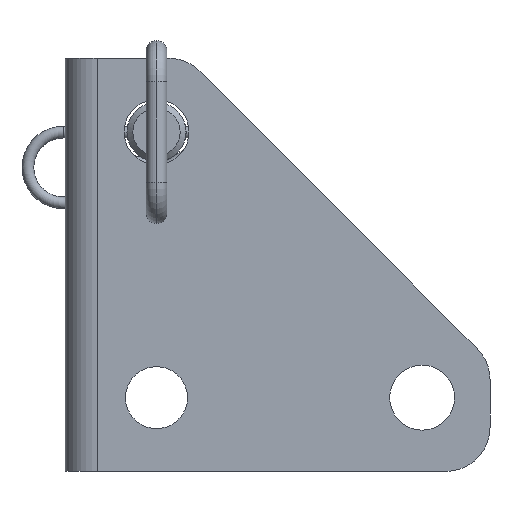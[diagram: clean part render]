
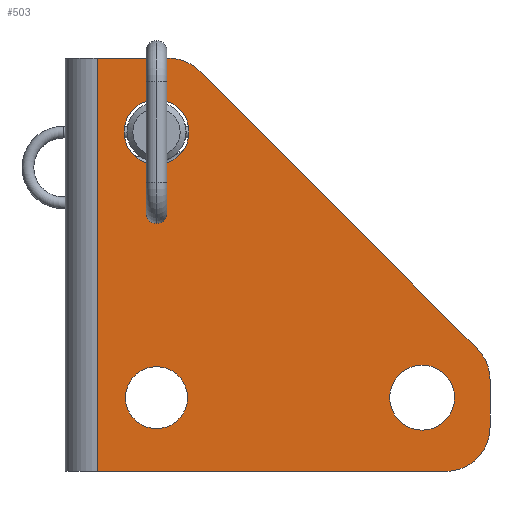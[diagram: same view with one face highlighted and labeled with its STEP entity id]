
A CAD part, left-side view. The second image highlights one B-rep face of the part: STEP entity #503.
In plain terms, the highlighted planar face has unit normal (-1, 0, 0).
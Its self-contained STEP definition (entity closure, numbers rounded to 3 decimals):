
#58 = VERTEX_POINT ( 'NONE', #808 ) ;
#60 = EDGE_CURVE ( 'NONE', #58, #61, #807, .T. ) ;
#61 = VERTEX_POINT ( 'NONE', #802 ) ;
#68 = VERTEX_POINT ( 'NONE', #1017 ) ;
#70 = VERTEX_POINT ( 'NONE', #1016 ) ;
#86 = EDGE_CURVE ( 'NONE', #87, #136, #957, .T. ) ;
#87 = VERTEX_POINT ( 'NONE', #953 ) ;
#136 = VERTEX_POINT ( 'NONE', #1068 ) ;
#160 = VERTEX_POINT ( 'NONE', #1149 ) ;
#162 = EDGE_CURVE ( 'NONE', #160, #163, #1147, .T. ) ;
#163 = VERTEX_POINT ( 'NONE', #1148 ) ;
#173 = VERTEX_POINT ( 'NONE', #1237 ) ;
#175 = EDGE_CURVE ( 'NONE', #173, #176, #1236, .T. ) ;
#176 = VERTEX_POINT ( 'NONE', #1231 ) ;
#269 = EDGE_CURVE ( 'NONE', #68, #70, #1196, .T. ) ;
#366 = ORIENTED_EDGE ( 'NONE', *, *, #367, .F. ) ;
#367 = EDGE_CURVE ( 'NONE', #368, #397, #1401, .T. ) ;
#368 = VERTEX_POINT ( 'NONE', #1393 ) ;
#369 = ORIENTED_EDGE ( 'NONE', *, *, #370, .T. ) ;
#370 = EDGE_CURVE ( 'NONE', #368, #70, #1392, .T. ) ;
#374 = ORIENTED_EDGE ( 'NONE', *, *, #502, .F. ) ;
#375 = ORIENTED_EDGE ( 'NONE', *, *, #162, .F. ) ;
#376 = EDGE_LOOP ( 'NONE', ( #377, #379 ) ) ;
#377 = ORIENTED_EDGE ( 'NONE', *, *, #378, .F. ) ;
#378 = EDGE_CURVE ( 'NONE', #61, #58, #1374, .T. ) ;
#379 = ORIENTED_EDGE ( 'NONE', *, *, #60, .F. ) ;
#380 = EDGE_LOOP ( 'NONE', ( #381, #389 ) ) ;
#381 = ORIENTED_EDGE ( 'NONE', *, *, #382, .F. ) ;
#382 = EDGE_CURVE ( 'NONE', #176, #173, #1368, .T. ) ;
#383 = ORIENTED_EDGE ( 'NONE', *, *, #269, .F. ) ;
#384 = ORIENTED_EDGE ( 'NONE', *, *, #385, .F. ) ;
#385 = EDGE_CURVE ( 'NONE', #87, #68, #1363, .T. ) ;
#386 = ORIENTED_EDGE ( 'NONE', *, *, #86, .T. ) ;
#387 = ORIENTED_EDGE ( 'NONE', *, *, #388, .T. ) ;
#388 = EDGE_CURVE ( 'NONE', #136, #393, #1331, .T. ) ;
#389 = ORIENTED_EDGE ( 'NONE', *, *, #175, .F. ) ;
#390 = EDGE_LOOP ( 'NONE', ( #391, #395, #366, #369, #383, #384, #386, #387 ) ) ;
#391 = ORIENTED_EDGE ( 'NONE', *, *, #392, .T. ) ;
#392 = EDGE_CURVE ( 'NONE', #393, #394, #1326, .T. ) ;
#393 = VERTEX_POINT ( 'NONE', #1297 ) ;
#394 = VERTEX_POINT ( 'NONE', #1296 ) ;
#395 = ORIENTED_EDGE ( 'NONE', *, *, #396, .T. ) ;
#396 = EDGE_CURVE ( 'NONE', #394, #397, #1295, .T. ) ;
#397 = VERTEX_POINT ( 'NONE', #1290 ) ;
#502 = EDGE_CURVE ( 'NONE', #163, #160, #1510, .T. ) ;
#503 = ADVANCED_FACE ( 'NONE', ( #1505, #1504, #1503, #1502 ), #1501, .T. ) ;
#504 = EDGE_LOOP ( 'NONE', ( #374, #375 ) ) ;
#802 = CARTESIAN_POINT ( 'NONE',  ( 0., 113., -104.5 ) ) ;
#803 = DIRECTION ( 'NONE',  ( 0., 0., 1. ) ) ;
#804 = DIRECTION ( 'NONE',  ( -1., 0., 0. ) ) ;
#805 = CARTESIAN_POINT ( 'NONE',  ( 0., 113., -115. ) ) ;
#806 = AXIS2_PLACEMENT_3D ( 'NONE', #805, #804, #803 ) ;
#807 = CIRCLE ( 'NONE', #806, 10.5 ) ;
#808 = CARTESIAN_POINT ( 'NONE',  ( 0., 113., -125.5 ) ) ;
#953 = CARTESIAN_POINT ( 'NONE',  ( 0., 133., -140. ) ) ;
#954 = DIRECTION ( 'NONE',  ( 0., -1., 0. ) ) ;
#955 = VECTOR ( 'NONE', #954, 1000. ) ;
#956 = CARTESIAN_POINT ( 'NONE',  ( 0., 0., -140. ) ) ;
#957 = LINE ( 'NONE', #956, #955 ) ;
#1016 = CARTESIAN_POINT ( 'NONE',  ( 0., 108.858, 0. ) ) ;
#1017 = CARTESIAN_POINT ( 'NONE',  ( 0., 133., 0. ) ) ;
#1068 = CARTESIAN_POINT ( 'NONE',  ( 0., 15., -140. ) ) ;
#1143 = DIRECTION ( 'NONE',  ( 0., 0., 1. ) ) ;
#1144 = DIRECTION ( 'NONE',  ( -1., 0., 0. ) ) ;
#1145 = CARTESIAN_POINT ( 'NONE',  ( 0., 23., -115. ) ) ;
#1146 = AXIS2_PLACEMENT_3D ( 'NONE', #1145, #1144, #1143 ) ;
#1147 = CIRCLE ( 'NONE', #1146, 11. ) ;
#1148 = CARTESIAN_POINT ( 'NONE',  ( 0., 23., -104. ) ) ;
#1149 = CARTESIAN_POINT ( 'NONE',  ( 0., 23., -126. ) ) ;
#1193 = DIRECTION ( 'NONE',  ( 0., -1., 0. ) ) ;
#1194 = VECTOR ( 'NONE', #1193, 1000. ) ;
#1195 = CARTESIAN_POINT ( 'NONE',  ( 0., 0., 0. ) ) ;
#1196 = LINE ( 'NONE', #1195, #1194 ) ;
#1231 = CARTESIAN_POINT ( 'NONE',  ( 0., 113., -14. ) ) ;
#1232 = DIRECTION ( 'NONE',  ( 0., 0., 1. ) ) ;
#1233 = DIRECTION ( 'NONE',  ( -1., 0., 0. ) ) ;
#1234 = CARTESIAN_POINT ( 'NONE',  ( 0., 113., -25. ) ) ;
#1235 = AXIS2_PLACEMENT_3D ( 'NONE', #1234, #1233, #1232 ) ;
#1236 = CIRCLE ( 'NONE', #1235, 11. ) ;
#1237 = CARTESIAN_POINT ( 'NONE',  ( 0., 113., -36. ) ) ;
#1290 = CARTESIAN_POINT ( 'NONE',  ( 0., 4.393, -98.251 ) ) ;
#1291 = DIRECTION ( 'NONE',  ( 0., 0., 1. ) ) ;
#1292 = DIRECTION ( 'NONE',  ( -1., 0., 0. ) ) ;
#1293 = CARTESIAN_POINT ( 'NONE',  ( 0., 15., -108.858 ) ) ;
#1294 = AXIS2_PLACEMENT_3D ( 'NONE', #1293, #1292, #1291 ) ;
#1295 = CIRCLE ( 'NONE', #1294, 15. ) ;
#1296 = CARTESIAN_POINT ( 'NONE',  ( 0., 0., -108.858 ) ) ;
#1297 = CARTESIAN_POINT ( 'NONE',  ( 0., 0., -125. ) ) ;
#1298 = DIRECTION ( 'NONE',  ( 0., 0., 1. ) ) ;
#1324 = VECTOR ( 'NONE', #1298, 1000. ) ;
#1325 = CARTESIAN_POINT ( 'NONE',  ( 0., 0., -140. ) ) ;
#1326 = LINE ( 'NONE', #1325, #1324 ) ;
#1327 = DIRECTION ( 'NONE',  ( 0., 0., 1. ) ) ;
#1328 = DIRECTION ( 'NONE',  ( -1., 0., 0. ) ) ;
#1329 = CARTESIAN_POINT ( 'NONE',  ( 0., 15., -125. ) ) ;
#1330 = AXIS2_PLACEMENT_3D ( 'NONE', #1329, #1328, #1327 ) ;
#1331 = CIRCLE ( 'NONE', #1330, 15. ) ;
#1332 = DIRECTION ( 'NONE',  ( 0., 0., 1. ) ) ;
#1333 = VECTOR ( 'NONE', #1332, 1000. ) ;
#1363 = LINE ( 'NONE', #1369, #1333 ) ;
#1364 = DIRECTION ( 'NONE',  ( 0., 0., 1. ) ) ;
#1365 = DIRECTION ( 'NONE',  ( -1., 0., 0. ) ) ;
#1366 = CARTESIAN_POINT ( 'NONE',  ( 0., 113., -25. ) ) ;
#1367 = AXIS2_PLACEMENT_3D ( 'NONE', #1366, #1365, #1364 ) ;
#1368 = CIRCLE ( 'NONE', #1367, 11. ) ;
#1369 = CARTESIAN_POINT ( 'NONE',  ( 0., 133., -140. ) ) ;
#1370 = DIRECTION ( 'NONE',  ( 0., 0., 1. ) ) ;
#1371 = DIRECTION ( 'NONE',  ( -1., 0., 0. ) ) ;
#1372 = CARTESIAN_POINT ( 'NONE',  ( 0., 113., -115. ) ) ;
#1373 = AXIS2_PLACEMENT_3D ( 'NONE', #1372, #1371, #1370 ) ;
#1374 = CIRCLE ( 'NONE', #1373, 10.5 ) ;
#1388 = DIRECTION ( 'NONE',  ( 0., 0., 1. ) ) ;
#1389 = DIRECTION ( 'NONE',  ( -1., 0., 0. ) ) ;
#1390 = CARTESIAN_POINT ( 'NONE',  ( 0., 108.858, -15. ) ) ;
#1391 = AXIS2_PLACEMENT_3D ( 'NONE', #1390, #1389, #1388 ) ;
#1392 = CIRCLE ( 'NONE', #1391, 15. ) ;
#1393 = CARTESIAN_POINT ( 'NONE',  ( 0., 98.251, -4.393 ) ) ;
#1394 = DIRECTION ( 'NONE',  ( 0., -0.707, -0.707 ) ) ;
#1395 = VECTOR ( 'NONE', #1394, 1000. ) ;
#1396 = CARTESIAN_POINT ( 'NONE',  ( 0., 102.645, 0. ) ) ;
#1401 = LINE ( 'NONE', #1396, #1395 ) ;
#1501 = PLANE ( 'NONE',  #1759 ) ;
#1502 = FACE_OUTER_BOUND ( 'NONE', #390, .T. ) ;
#1503 = FACE_BOUND ( 'NONE', #380, .T. ) ;
#1504 = FACE_BOUND ( 'NONE', #376, .T. ) ;
#1505 = FACE_BOUND ( 'NONE', #504, .T. ) ;
#1506 = DIRECTION ( 'NONE',  ( 0., 0., 1. ) ) ;
#1507 = DIRECTION ( 'NONE',  ( -1., 0., 0. ) ) ;
#1508 = CARTESIAN_POINT ( 'NONE',  ( 0., 23., -115. ) ) ;
#1509 = AXIS2_PLACEMENT_3D ( 'NONE', #1508, #1507, #1506 ) ;
#1510 = CIRCLE ( 'NONE', #1509, 11. ) ;
#1756 = DIRECTION ( 'NONE',  ( 0., 0., 1. ) ) ;
#1757 = DIRECTION ( 'NONE',  ( -1., 0., 0. ) ) ;
#1758 = CARTESIAN_POINT ( 'NONE',  ( 0., 0., -140. ) ) ;
#1759 = AXIS2_PLACEMENT_3D ( 'NONE', #1758, #1757, #1756 ) ;
